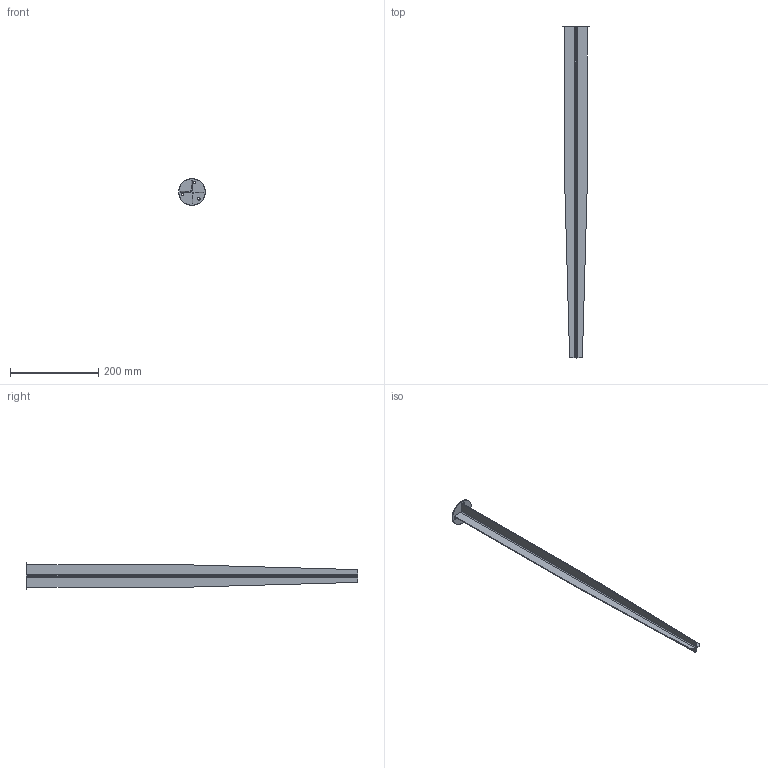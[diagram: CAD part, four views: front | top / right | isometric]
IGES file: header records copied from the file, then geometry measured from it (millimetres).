
Start section: SolidWorks IGES file using analytic representation for surfaces
Global section: file name: C:\Users\User2\Desktop\Lego IGS\Êîëûøåê â ãðóíò Lego H750.IGS; native system: SolidWorks 2024; preprocessor: SolidWorks 2024; author: User2; date: 251022.124818; units: millimetre
Bounding box: 60 x 752 x 60 mm (x, y, z)
Surface area: 136223.4 mm2 (no closed solid volume)
Topology: 0 solids, 0 shells, 36 faces, 608 edges, 608 vertices
Faces by surface type: bspline 20, revolution 16
